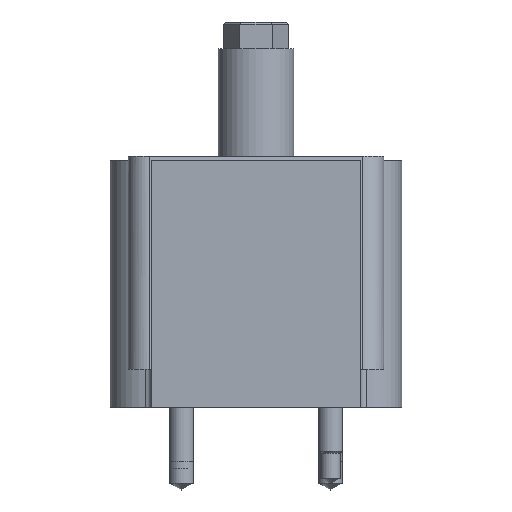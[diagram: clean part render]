
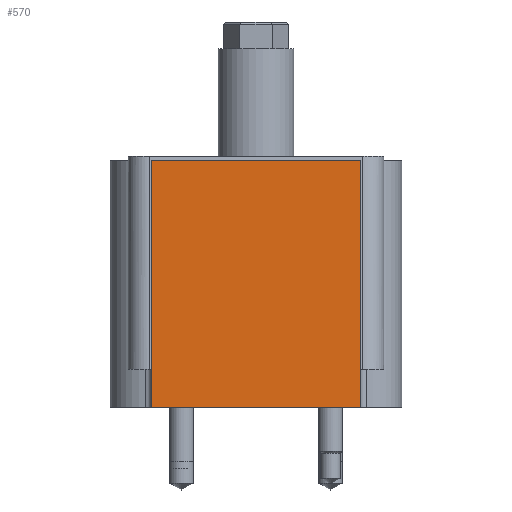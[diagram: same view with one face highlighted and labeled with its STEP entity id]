
A CAD part, left-side view. The second image highlights one B-rep face of the part: STEP entity #570.
In plain terms, the highlighted planar face has unit normal (-1, 0, 0).
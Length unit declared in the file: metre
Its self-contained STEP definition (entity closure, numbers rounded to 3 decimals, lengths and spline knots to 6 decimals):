
#570=ADVANCED_FACE('',(#1275),#1276,.T.);
#1275=FACE_OUTER_BOUND('',#2271,.T.);
#1276=PLANE('',#2272);
#2271=EDGE_LOOP('',(#11949,#11950,#11951,#11952));
#2272=AXIS2_PLACEMENT_3D('',#11953,#11954,#11955);
#11949=ORIENTED_EDGE('',*,*,#13468,.F.);
#11950=ORIENTED_EDGE('',*,*,#13432,.T.);
#11951=ORIENTED_EDGE('',*,*,#13445,.F.);
#11952=ORIENTED_EDGE('',*,*,#13454,.T.);
#11953=CARTESIAN_POINT('',(-0.084201,0.0,0.0));
#11954=DIRECTION('',(-1.0,0.0,0.0));
#11955=DIRECTION('',(0.0,0.0,1.0));
#13432=EDGE_CURVE('',#14208,#14206,#14209,.T.);
#13445=EDGE_CURVE('',#14228,#14206,#14230,.F.);
#13454=EDGE_CURVE('',#14228,#14244,#14246,.T.);
#13468=EDGE_CURVE('',#14208,#14244,#14260,.F.);
#14206=VERTEX_POINT('',#15277);
#14208=VERTEX_POINT('',#15280);
#14209=LINE('',#15281,#15282);
#14228=VERTEX_POINT('',#15303);
#14230=LINE('',#15306,#15307);
#14244=VERTEX_POINT('',#15324);
#14246=LINE('',#15327,#15328);
#14260=LINE('',#15348,#15349);
#15277=CARTESIAN_POINT('',(-0.084201,-0.034988,0.0));
#15280=CARTESIAN_POINT('',(-0.084201,0.034988,0.0));
#15281=CARTESIAN_POINT('',(-0.084201,0.0,0.0));
#15282=VECTOR('',#18474,1.0);
#15303=CARTESIAN_POINT('',(-0.084201,-0.034988,0.08255));
#15306=CARTESIAN_POINT('',(-0.084201,-0.034988,0.0));
#15307=VECTOR('',#18496,1.0);
#15324=CARTESIAN_POINT('',(-0.084201,0.034988,0.08255));
#15327=CARTESIAN_POINT('',(-0.084201,0.0,0.08255));
#15328=VECTOR('',#18510,1.0);
#15348=CARTESIAN_POINT('',(-0.084201,0.034988,0.0));
#15349=VECTOR('',#18520,1.0);
#18474=DIRECTION('',(-0.0,-1.0,-0.0));
#18496=DIRECTION('',(0.0,0.0,1.0));
#18510=DIRECTION('',(0.0,1.0,0.0));
#18520=DIRECTION('',(0.0,0.0,-1.0));
